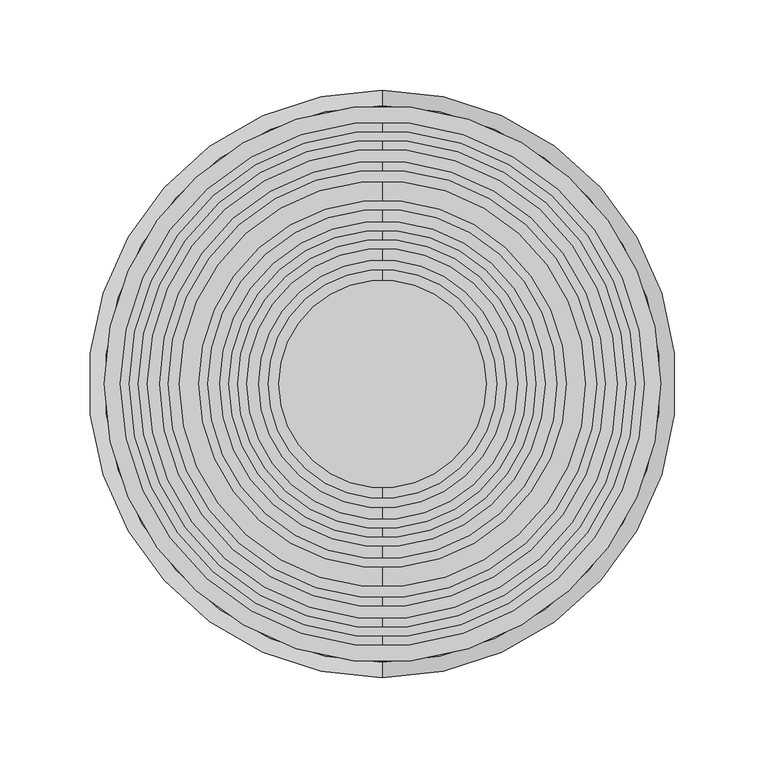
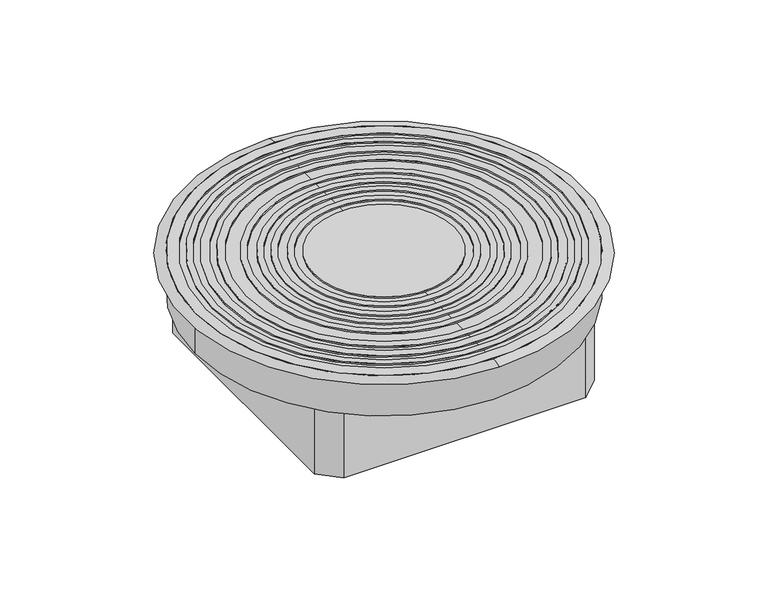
"""IFC4 building model written with IfcOpenShell, lengths in millimetres: proxy geometry, Electrical_Installation_Hager_VE-EE_VANR-Service-unit-for-wet-cleaned-floors-with-tube-cable-outlete-made-of-polyamide : Service unit R12 w set HB wet PA-Tub Al R."""

from ifc_helpers import new_model, si_unit, point, frame, origin, origin_with_axes, origin_2d, place, context, project, spatial, polyline, circle_curve, ellipse_curve, trimmed, segment, composite_curve, outline, extrude, source, transform, mapped, element, save
from ifc_brep_helpers import plane_surface, revolved_surface, advanced_brep


def electrical_fixtures_bc096a6a(model_context):
    return source(origin(), model_context, "Body", "SolidModel", [
        extrude(outline(composite_curve([segment(trimmed(circle_curve(origin_2d(), 140.0), [point((-140.0, 0.0))], [point((140.0, 0.0))], False, "CARTESIAN"), True, "CONTINUOUS"), segment(trimmed(circle_curve(origin_2d(), 140.0), [point((140.0, 0.0))], [point((-140.0, 0.0))], False, "CARTESIAN"), True, "CONTINUOUS")], self_intersect=False), holes=[composite_curve([segment(trimmed(circle_curve(origin_2d(), 135.0), [point((135.0, 0.0))], [point((-135.0, 0.0))], True, "CARTESIAN"), True, "CONTINUOUS"), segment(trimmed(circle_curve(origin_2d(), 135.0), [point((-135.0, 0.0))], [point((135.0, 0.0))], True, "CARTESIAN"), True, "CONTINUOUS")], self_intersect=False)]), origin_with_axes(), (0.0, 0.0, 1.0), 2.0),
        extrude(outline(composite_curve([segment(trimmed(circle_curve(origin_2d(), 130.0), [point((-130.0, 0.0))], [point((130.0, 0.0))], False, "CARTESIAN"), True, "CONTINUOUS"), segment(trimmed(circle_curve(origin_2d(), 130.0), [point((130.0, 0.0))], [point((-130.0, 0.0))], False, "CARTESIAN"), True, "CONTINUOUS")], self_intersect=False), holes=[composite_curve([segment(trimmed(circle_curve(origin_2d(), 123.295296), [point((123.295296, 0.0))], [point((-123.295296, 0.0))], True, "CARTESIAN"), True, "CONTINUOUS"), segment(trimmed(circle_curve(origin_2d(), 123.295296), [point((-123.295296, 0.0))], [point((123.295296, 0.0))], True, "CARTESIAN"), True, "CONTINUOUS")], self_intersect=False)]), origin_with_axes(), (0.0, 0.0, 1.0), 2.0),
        extrude(outline(composite_curve([segment(trimmed(circle_curve(origin_2d(), 118.499994), [point((-118.499994, 0.0))], [point((118.499994, 0.0))], False, "CARTESIAN"), True, "CONTINUOUS"), segment(trimmed(circle_curve(origin_2d(), 118.499994), [point((118.499994, 0.0))], [point((-118.499994, 0.0))], False, "CARTESIAN"), True, "CONTINUOUS")], self_intersect=False), holes=[composite_curve([segment(trimmed(circle_curve(origin_2d(), 112.3953075), [point((112.3953075, 0.0))], [point((-112.3953075, 0.0))], True, "CARTESIAN"), True, "CONTINUOUS"), segment(trimmed(circle_curve(origin_2d(), 112.3953075), [point((-112.3953075, 0.0))], [point((112.3953075, 0.0))], True, "CARTESIAN"), True, "CONTINUOUS")], self_intersect=False)]), origin_with_axes(), (0.0, 0.0, 1.0), 2.0),
        extrude(outline(composite_curve([segment(trimmed(circle_curve(origin_2d(), 101.6340503), [point((-101.6340503, 0.0))], [point((101.6340503, 0.0))], False, "CARTESIAN"), True, "CONTINUOUS"), segment(trimmed(circle_curve(origin_2d(), 101.6340503), [point((101.6340503, 0.0))], [point((-101.6340503, 0.0))], False, "CARTESIAN"), True, "CONTINUOUS")], self_intersect=False), holes=[composite_curve([segment(trimmed(circle_curve(origin_2d(), 96.6344819), [point((96.6344819, 0.0))], [point((-96.6344819, 0.0))], True, "CARTESIAN"), True, "CONTINUOUS"), segment(trimmed(circle_curve(origin_2d(), 96.6344819), [point((-96.6344819, 0.0))], [point((96.6344819, 0.0))], True, "CARTESIAN"), True, "CONTINUOUS")], self_intersect=False)]), origin_with_axes(), (0.0, 0.0, 1.0), 2.0),
        extrude(outline(composite_curve([segment(trimmed(circle_curve(origin_2d(), 90.0), [point((-90.0, 0.0))], [point((90.0, 0.0))], False, "CARTESIAN"), True, "CONTINUOUS"), segment(trimmed(circle_curve(origin_2d(), 90.0), [point((90.0, 0.0))], [point((-90.0, 0.0))], False, "CARTESIAN"), True, "CONTINUOUS")], self_intersect=False), holes=[composite_curve([segment(trimmed(circle_curve(origin_2d(), 85.0), [point((85.0, 0.0))], [point((-85.0, 0.0))], True, "CARTESIAN"), True, "CONTINUOUS"), segment(trimmed(circle_curve(origin_2d(), 85.0), [point((-85.0, 0.0))], [point((85.0, 0.0))], True, "CARTESIAN"), True, "CONTINUOUS")], self_intersect=False)]), origin_with_axes(), (0.0, 0.0, 1.0), 2.0),
        extrude(outline(composite_curve([segment(trimmed(circle_curve(origin_2d(), 80.0), [point((-80.0, 0.0))], [point((80.0, 0.0))], False, "CARTESIAN"), True, "CONTINUOUS"), segment(trimmed(circle_curve(origin_2d(), 80.0), [point((80.0, 0.0))], [point((-80.0, 0.0))], False, "CARTESIAN"), True, "CONTINUOUS")], self_intersect=False), holes=[composite_curve([segment(trimmed(circle_curve(origin_2d(), 75.0), [point((75.0, 0.0))], [point((-75.0, 0.0))], True, "CARTESIAN"), True, "CONTINUOUS"), segment(trimmed(circle_curve(origin_2d(), 75.0), [point((-75.0, 0.0))], [point((75.0, 0.0))], True, "CARTESIAN"), True, "CONTINUOUS")], self_intersect=False)]), origin_with_axes(), (0.0, 0.0, 1.0), 2.0),
        extrude(outline(composite_curve([segment(trimmed(circle_curve(origin_2d(), 68.4542428), [point((-68.4542428, 0.0))], [point((68.4542428, 0.0))], False, "CARTESIAN"), True, "CONTINUOUS"), segment(trimmed(circle_curve(origin_2d(), 68.4542428), [point((68.4542428, 0.0))], [point((-68.4542428, 0.0))], False, "CARTESIAN"), True, "CONTINUOUS")], self_intersect=False), holes=[composite_curve([segment(trimmed(circle_curve(origin_2d(), 63.2916126), [point((63.2916126, 0.0))], [point((-63.2916126, 0.0))], True, "CARTESIAN"), True, "CONTINUOUS"), segment(trimmed(circle_curve(origin_2d(), 63.2916126), [point((-63.2916126, 0.0))], [point((63.2916126, 0.0))], True, "CARTESIAN"), True, "CONTINUOUS")], self_intersect=False)]), origin_with_axes(), (0.0, 0.0, 1.0), 2.0),
        extrude(outline(composite_curve([segment(trimmed(circle_curve(origin_2d(), 57.3493288), [point((-57.3493288, 0.0))], [point((57.3493288, 0.0))], False, "CARTESIAN"), True, "CONTINUOUS"), segment(trimmed(circle_curve(origin_2d(), 57.3493288), [point((57.3493288, 0.0))], [point((-57.3493288, 0.0))], False, "CARTESIAN"), True, "CONTINUOUS")], self_intersect=False)), origin_with_axes(), (0.0, 0.0, 1.0), 2.0),
        extrude(outline(composite_curve([segment(trimmed(circle_curve(origin_2d(), 154.0), [point((-154.0, 0.0))], [point((154.0, 0.0))], False, "CARTESIAN"), True, "CONTINUOUS"), segment(trimmed(circle_curve(origin_2d(), 154.0), [point((154.0, 0.0))], [point((-154.0, 0.0))], False, "CARTESIAN"), True, "CONTINUOUS")], self_intersect=False), holes=[composite_curve([segment(trimmed(circle_curve(origin_2d(), 145.0), [point((145.0, 0.0))], [point((-145.0, 0.0))], True, "CARTESIAN"), True, "CONTINUOUS"), segment(trimmed(circle_curve(origin_2d(), 145.0), [point((-145.0, 0.0))], [point((145.0, 0.0))], True, "CARTESIAN"), True, "CONTINUOUS")], self_intersect=False)]), origin_with_axes(), (0.0, 0.0, 1.0), 2.0),
        extrude(outline(polyline([(-99.0882065, 114.5), (99.3942383, 114.5), (114.5, 99.0262113), (114.5, -98.7169494), (98.5882125, -114.5), (-98.7359175, -114.5), (-114.5, -99.7976183), (-114.5, 100.165624), (-99.0882065, 114.5)]), holes=[polyline([(111.0181904, 98.7695063), (98.7659338, 111.5), (-98.7903505, 111.5), (-111.5, 98.7903505), (-111.5, -98.7903505), (-98.7903505, -111.5), (98.2048826, -111.5), (111.0181904, -96.4986902), (111.0181904, 98.7695063)])]), frame((0.0, 0.0, -90.0), z_axis=(0.0, 0.0, 1.0), x_axis=(1.0, 0.0, 0.0)), (0.0, 0.0, 1.0), 57.0),
        extrude(outline(composite_curve([segment(trimmed(circle_curve(origin_2d(), 154.0), [point((-154.0, 0.0))], [point((154.0, 0.0))], False, "CARTESIAN"), True, "CONTINUOUS"), segment(trimmed(circle_curve(origin_2d(), 154.0), [point((154.0, 0.0))], [point((-154.0, 0.0))], False, "CARTESIAN"), True, "CONTINUOUS")], self_intersect=False), holes=[composite_curve([segment(trimmed(circle_curve(origin_2d(), 149.4973074), [point((-114.5, -96.120731))], [point((-96.120731, -114.5))], True, "CARTESIAN"), True, "CONTINUOUS"), segment(polyline([(-96.120731, -114.5), (96.120731, -114.5)]), True, "CONTINUOUS"), segment(trimmed(circle_curve(origin_2d(), 149.4973074), [point((96.120731, -114.5))], [point((114.5, -96.120731))], True, "CARTESIAN"), True, "CONTINUOUS"), segment(polyline([(114.5, -96.120731), (114.5, 96.120731)]), True, "CONTINUOUS"), segment(trimmed(circle_curve(origin_2d(), 149.4973074), [point((114.5, 96.120731))], [point((96.120731, 114.5))], True, "CARTESIAN"), True, "CONTINUOUS"), segment(polyline([(96.120731, 114.5), (-96.120731, 114.5)]), True, "CONTINUOUS"), segment(trimmed(circle_curve(origin_2d(), 149.4973074), [point((-96.120731, 114.5))], [point((-114.5, 96.120731))], True, "CARTESIAN"), True, "CONTINUOUS"), segment(polyline([(-114.5, 96.120731), (-114.5, -96.120731)]), True, "CONTINUOUS")], self_intersect=False)]), frame((0.0, 0.0, -33.0), z_axis=(0.0, 0.0, 1.0), x_axis=(1.0, 0.0, 0.0)), (0.0, 0.0, 1.0), 33.0),
        advanced_brep(
        [(0.0, -162.5, 0.0), (0.0, 162.5, 0.0), (0.0, 0.0, 0.0), (0.0, -154.0132917, 0.9941326), (0.0, 154.0132917, 0.9941326), (0.0, 154.0132917, 1.9800426), (0.0, -154.0132917, 1.9800426), (0.0, 0.0, 0.9941326)],
        [
            (0, 1, circle_curve(frame((0.0, 0.0, 0.0), z_axis=(0.0, 0.0, -1.0), x_axis=(0.0, 1.0, 0.0)), 162.5)),
            (1, 2),
            (2, 0),
            (1, 0, circle_curve(frame((0.0, 0.0, 0.0), z_axis=(0.0, 0.0, -1.0), x_axis=(0.0, 1.0, 0.0)), 162.5)),
            (3, 4, circle_curve(frame((0.0, 0.0, 0.9941326), z_axis=(0.0, 0.0, -1.0), x_axis=(0.0, 1.0, 0.0)), 154.0132917)),
            (4, 5),
            (5, 6, circle_curve(frame((0.0, 0.0, 1.9800426), z_axis=(0.0, 0.0, 1.0), x_axis=(0.0, 1.0, 0.0)), 154.0132917)),
            (6, 3),
            (4, 3, circle_curve(frame((0.0, 0.0, 0.9941326), z_axis=(0.0, 0.0, -1.0), x_axis=(0.0, 1.0, 0.0)), 154.0132917)),
            (6, 5, circle_curve(frame((0.0, 0.0, 1.9800426), z_axis=(0.0, 0.0, 1.0), x_axis=(0.0, 1.0, 0.0)), 154.0132917)),
            (7, 4),
            (3, 7),
            (5, 1, circle_curve(frame((0.0, 154.4758851, -15.2147882), z_axis=(-1.0, 0.0, 0.0), x_axis=(0.0, 1.0, 0.0)), 17.2010523)),
            (0, 6, circle_curve(frame((0.0, -154.4758851, -15.2147882), z_axis=(-1.0, 0.0, 0.0), x_axis=(0.0, -1.0, 0.0)), 17.2010523)),
        ],
        [
            plane_surface(frame((0.0, 0.0, 0.0), z_axis=(0.0, 0.0, -1.0), x_axis=(0.0, 1.0, 0.0))),
            revolved_surface(polyline([(0.0, 154.0132917, 1.9800426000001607), (0.0, 154.0132917, 0.9941325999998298)]), (0.0, 0.0, 2341.8067943), (0.0, 0.0, 1.0)),
            plane_surface(frame((0.0, 0.0, 0.9941326), z_axis=(0.0, 0.0, 1.0), x_axis=(0.0, 1.0, 0.0))),
            revolved_surface(trimmed(ellipse_curve(frame((0.0, 154.4758851, -15.2147882), z_axis=(1.0, 0.0, 0.0), x_axis=(0.0, 1.0, 0.0)), 17.2010523, 17.2010523), [point((0.0, 162.5, 0.0))], [point((0.0, 154.0132917, 1.9800426))], True, "CARTESIAN"), (0.0, 0.0, 2341.8067943), (0.0, 0.0, 1.0)),
        ],
        [
            (0, [[1, 2, 3]]),
            (0, [[4, -3, -2]]),
            (1, [[5, 6, 7, 8]]),
            (1, [[9, -8, 10, -6]]),
            (2, [[11, -5, 12]]),
            (2, [[-12, -9, -11]]),
            (3, [[-7, 13, -1, 14]]),
            (3, [[-10, -14, -4, -13]]),
        ],
    ),
    ])


if __name__ == "__main__":
    model = new_model("IFC4")
    model_context = context("Model", 3, world=origin())
    ifc_project = project(units=[si_unit("LENGTHUNIT", "METRE", prefix="MILLI")], contexts=[model_context])
    site = spatial("IfcSite", under=ifc_project)
    building = spatial("IfcBuilding", under=site)
    placement = place(None, origin())
    electrical_fixtures_shape = electrical_fixtures_bc096a6a(model_context)
    element("IfcBuildingElementProxy", 1, Name="Electrical_Installation_Hager_VE-EE_VANR-Service-unit-for-wet-cleaned-floors-with-tube-cable-outlete-made-of-polyamide : Service unit R12 w set HB wet PA-Tub Al R", ObjectType="Electrical_Installation_Hager_VE-EE_VANR-Service-unit-for-wet-cleaned-floors-with-tube-cable-outlete-made-of-polyamide : Service unit R12 w set HB wet PA-Tub Al R", at=placement, inside=building, context=model_context, shape_type="MappedRepresentation", body=[
        mapped(electrical_fixtures_shape, transform((0.0, 0.0, 0.0), x_axis=(1.0, 0.0, 0.0), y_axis=(0.0, 1.0, 0.0), z_axis=(0.0, 0.0, 1.0))),
    ])
    save(model, "model.ifc")
